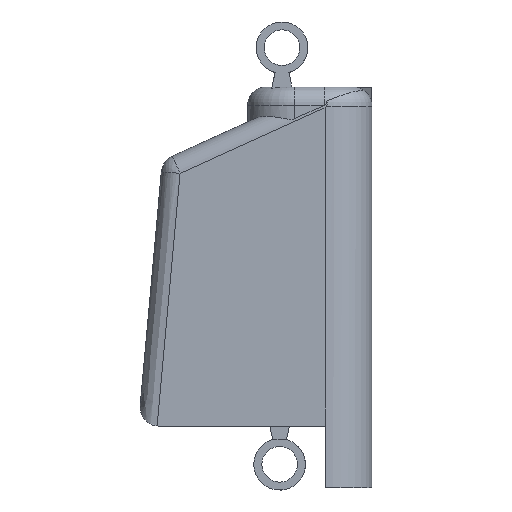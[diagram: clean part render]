
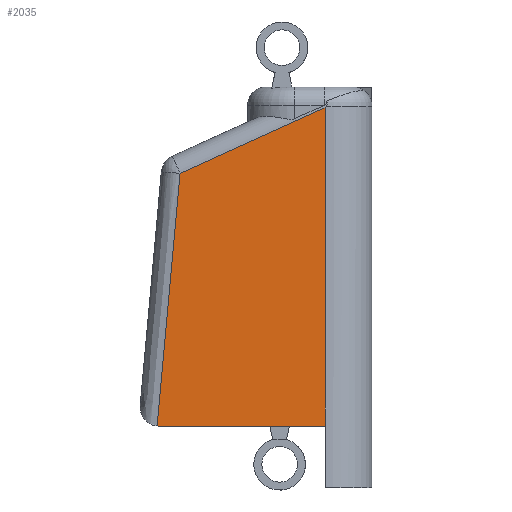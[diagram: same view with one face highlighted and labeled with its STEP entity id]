
A CAD part, front view. The second image highlights one B-rep face of the part: STEP entity #2035.
In plain terms, the highlighted planar face has unit normal (0, -1, 0).
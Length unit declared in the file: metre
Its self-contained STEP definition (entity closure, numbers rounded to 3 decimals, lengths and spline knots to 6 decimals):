
#64=PLANE('',#2215);
#113=B_SPLINE_CURVE_WITH_KNOTS('',3,(#3345,#3346,#3347,#3348,#3349),
 .UNSPECIFIED.,.F.,.F.,(4,1,4),(0.,0.013811,0.027621),
 .UNSPECIFIED.);
#176=CIRCLE('',#2216,0.002044);
#549=ORIENTED_EDGE('',*,*,#1014,.T.);
#550=ORIENTED_EDGE('',*,*,#1015,.T.);
#551=ORIENTED_EDGE('',*,*,#850,.F.);
#552=ORIENTED_EDGE('',*,*,#1016,.T.);
#553=ORIENTED_EDGE('',*,*,#1011,.T.);
#850=EDGE_CURVE('',#1152,#1153,#1339,.T.);
#1011=EDGE_CURVE('',#1258,#1257,#1440,.T.);
#1014=EDGE_CURVE('',#1257,#1260,#113,.T.);
#1015=EDGE_CURVE('',#1260,#1153,#176,.F.);
#1016=EDGE_CURVE('',#1152,#1258,#1441,.F.);
#1152=VERTEX_POINT('',#2951);
#1153=VERTEX_POINT('',#2953);
#1257=VERTEX_POINT('',#3330);
#1258=VERTEX_POINT('',#3332);
#1260=VERTEX_POINT('',#3350);
#1339=LINE('',#2952,#1536);
#1440=LINE('',#3331,#1637);
#1441=LINE('',#3352,#1638);
#1536=VECTOR('',#2353,1.);
#1637=VECTOR('',#2646,1.);
#1638=VECTOR('',#2653,1.);
#1774=EDGE_LOOP('',(#549,#550,#551,#552,#553));
#1895=FACE_BOUND('',#1774,.T.);
#2035=ADVANCED_FACE('',(#1895),#64,.F.);
#2215=AXIS2_PLACEMENT_3D('',#3344,#2649,#2650);
#2216=AXIS2_PLACEMENT_3D('',#3351,#2651,#2652);
#2353=DIRECTION('',(-1.,0.,0.));
#2646=DIRECTION('',(-0.911,0.,-0.412));
#2649=DIRECTION('',(0.,1.,0.));
#2650=DIRECTION('',(0.,0.,1.));
#2651=DIRECTION('',(0.,1.,0.));
#2652=DIRECTION('',(0.,0.,1.));
#2653=DIRECTION('',(0.,0.,-1.));
#2951=CARTESIAN_POINT('',(0.028508,-0.013074,0.095828));
#2952=CARTESIAN_POINT('',(0.033617,-0.013074,0.095828));
#2953=CARTESIAN_POINT('',(0.010414,-0.013074,0.095828));
#3330=CARTESIAN_POINT('',(0.012728,-0.013074,0.123345));
#3331=CARTESIAN_POINT('',(0.025565,-0.013074,0.129153));
#3332=CARTESIAN_POINT('',(0.028508,-0.013074,0.130485));
#3344=CARTESIAN_POINT('',(0.033617,-0.013074,0.111357));
#3345=CARTESIAN_POINT('',(0.012728,-0.013074,0.123345));
#3346=CARTESIAN_POINT('',(0.012387,-0.013074,0.118753));
#3347=CARTESIAN_POINT('',(0.011578,-0.013074,0.109582));
#3348=CARTESIAN_POINT('',(0.010639,-0.013074,0.100422));
#3349=CARTESIAN_POINT('',(0.010227,-0.013074,0.095837));
#3350=CARTESIAN_POINT('',(0.010227,-0.013074,0.095837));
#3351=CARTESIAN_POINT('',(0.010414,-0.013074,0.097872));
#3352=CARTESIAN_POINT('',(0.028508,-0.013074,0.124535));
